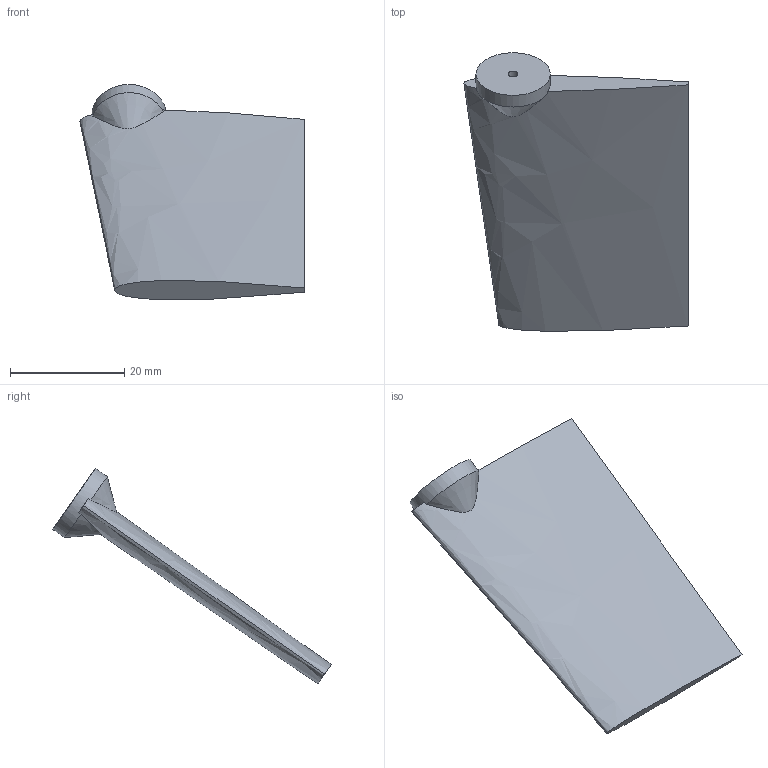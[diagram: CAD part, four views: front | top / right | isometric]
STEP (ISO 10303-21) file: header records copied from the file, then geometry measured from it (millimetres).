
FILE_DESCRIPTION(('Open CASCADE Model'),'2;1');
FILE_NAME('Open CASCADE Shape Model','2026-10-04T21:26:22',('Author'),( 'Open CASCADE'),'Open CASCADE STEP processor 7.9','Open CASCADE 7.9' ,'Unknown');
FILE_SCHEMA(('AUTOMOTIVE_DESIGN { 1 0 10303 214 1 1 1 1 }'));
Length unit declared in the file: millimetre
Products named in the file (1): Open CASCADE STEP translator 7.9 21
Bounding box: 39.2 x 48.66 x 37.59 mm (x, y, z)
Volume: 6640.4 mm3; surface area: 4485.2 mm2
Topology: 1 solids, 1 shells, 12 faces, 27 edges, 18 vertices
Faces by surface type: plane 6, bspline 2, cone 2, cylinder 2
Full cylindrical faces by diameter (mm): 1.7 x1, 13 x1
Entity records: 2227 total; most frequent: CARTESIAN_POINT 1728, DIRECTION 71, ORIENTED_EDGE 54, PCURVE 54, DEFINITIONAL_REPRESENTATION 54, B_SPLINE_CURVE_WITH_KNOTS 37, LINE 31, VECTOR 31
